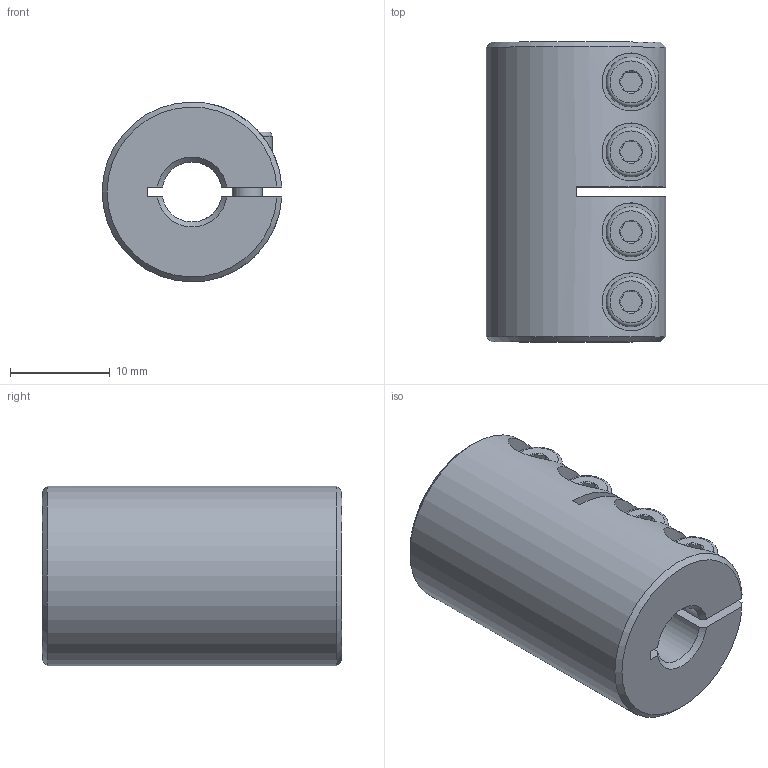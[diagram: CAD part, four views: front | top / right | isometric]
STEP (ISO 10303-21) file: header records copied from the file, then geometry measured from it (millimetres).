
FILE_DESCRIPTION( ( 'Unknown' ), '1' );
FILE_NAME( 'K:/Konstruktion/Fertigungszeichnungen/Schalenkupplung/KBST-VA/KBST-VA-6.stp', 'Unknown', ( 'Unknown' ), ( 'Unknown' ), 'PSStep 16.0.42', 'Unknown', ' ' );
FILE_SCHEMA( ( 'AUTOMOTIVE_DESIGN { 1 0 10303 214 1 1 1 1 }' ) );
Length unit declared in the file: millimetre
Products named in the file (3): Assem1; ISO EN DIN 4762 M3x8; KBST-VA-6
Assembly tree (5 placements, depth 2):
  Assem1
    ISO EN DIN 4762 M3x8  x4
    KBST-VA-6
Bounding box: 17.99 x 30 x 18 mm (x, y, z)
Volume: 6257.1 mm3; surface area: 4267.4 mm2
Topology: 5 solids, 5 shells, 140 faces, 282 edges, 172 vertices
Faces by surface type: plane 67, cone 34, cylinder 31, torus 8
Full cylindrical faces by diameter (mm): 2.459 x4, 2.98 x4, 3 x8, 3.2 x4, 5 x4
Entity records: 2756 total; most frequent: CARTESIAN_POINT 753, DIRECTION 298, ORIENTED_EDGE 258, EDGE_CURVE 129, AXIS2_PLACEMENT_3D 124, EDGE_LOOP 104, VERTEX_POINT 91, FACE_OUTER_BOUND 79
